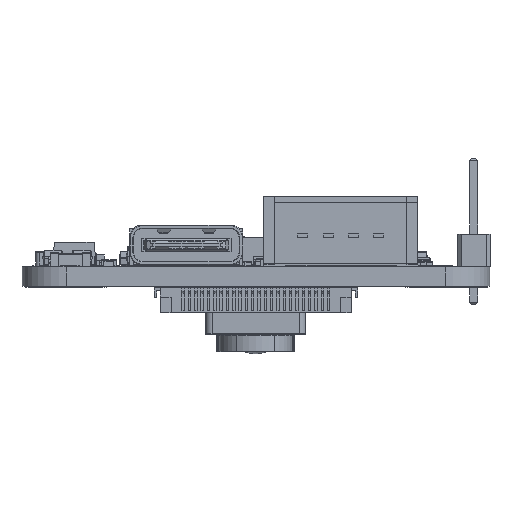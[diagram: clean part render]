
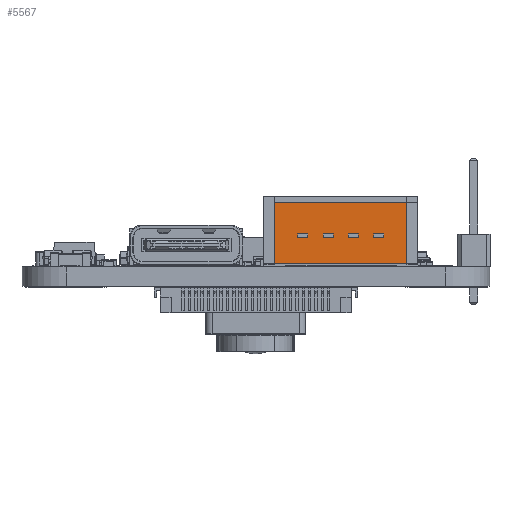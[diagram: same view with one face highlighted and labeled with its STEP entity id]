
A CAD part, front view. The second image highlights one B-rep face of the part: STEP entity #5567.
In plain terms, the highlighted planar face has unit normal (0, -1, 0).
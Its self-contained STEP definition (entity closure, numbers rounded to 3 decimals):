
#5567=ADVANCED_FACE('',(#12280),#120418,.T.);
#12280=FACE_OUTER_BOUND('',#19394,.T.);
#19394=EDGE_LOOP('',(#40655,#40656,#40657,#40658));
#40655=ORIENTED_EDGE('',*,*,#70255,.F.);
#40656=ORIENTED_EDGE('',*,*,#70257,.T.);
#40657=ORIENTED_EDGE('',*,*,#70247,.F.);
#40658=ORIENTED_EDGE('',*,*,#70258,.T.);
#70247=EDGE_CURVE('',#112142,#112143,#87790,.T.);
#70255=EDGE_CURVE('',#112148,#112149,#87798,.T.);
#70257=EDGE_CURVE('',#112148,#112143,#87800,.T.);
#70258=EDGE_CURVE('',#112142,#112149,#87801,.T.);
#87790=B_SPLINE_CURVE_WITH_KNOTS('',1,(#195874,#195875),.UNSPECIFIED.,.F.,
 .F.,(2,2),(0.,4.9),.UNSPECIFIED.);
#87798=B_SPLINE_CURVE_WITH_KNOTS('',1,(#195890,#195891),.UNSPECIFIED.,.F.,
 .F.,(2,2),(0.,4.9),.UNSPECIFIED.);
#87800=B_SPLINE_CURVE_WITH_KNOTS('',1,(#195894,#195895),.UNSPECIFIED.,.F.,
 .F.,(2,2),(0.,10.465),.UNSPECIFIED.);
#87801=B_SPLINE_CURVE_WITH_KNOTS('',1,(#195896,#195897),.UNSPECIFIED.,.F.,
 .F.,(2,2),(0.,10.465),.UNSPECIFIED.);
#112142=VERTEX_POINT('',#195866);
#112143=VERTEX_POINT('',#195867);
#112148=VERTEX_POINT('',#195872);
#112149=VERTEX_POINT('',#195873);
#120418=PLANE('',#130859);
#130859=AXIS2_PLACEMENT_3D('',#195863,#144103,$);
#144103=DIRECTION('',(0.,-1.,0.));
#195863=CARTESIAN_POINT('',(12.979,-12.869,7.091));
#195866=CARTESIAN_POINT('',(1.468,-12.869,1.701));
#195867=CARTESIAN_POINT('',(1.468,-12.869,6.601));
#195872=CARTESIAN_POINT('',(11.932,-12.869,6.601));
#195873=CARTESIAN_POINT('',(11.932,-12.869,1.701));
#195874=CARTESIAN_POINT('',(1.468,-12.869,1.701));
#195875=CARTESIAN_POINT('',(1.468,-12.869,6.601));
#195890=CARTESIAN_POINT('',(11.932,-12.869,6.601));
#195891=CARTESIAN_POINT('',(11.932,-12.869,1.701));
#195894=CARTESIAN_POINT('',(11.932,-12.869,6.601));
#195895=CARTESIAN_POINT('',(1.468,-12.869,6.601));
#195896=CARTESIAN_POINT('',(1.468,-12.869,1.701));
#195897=CARTESIAN_POINT('',(11.932,-12.869,1.701));
